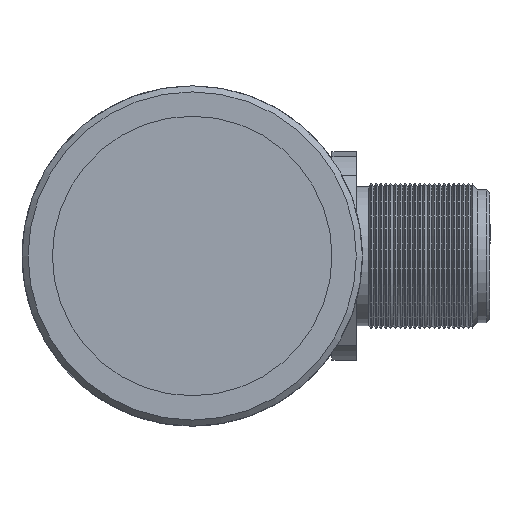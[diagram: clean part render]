
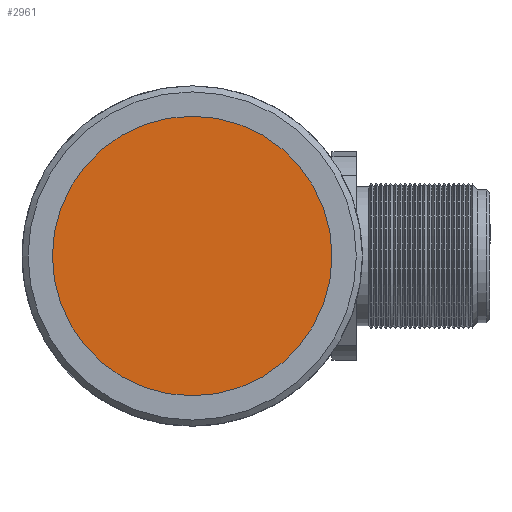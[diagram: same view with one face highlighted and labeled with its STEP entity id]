
A CAD part, left-side view. The second image highlights one B-rep face of the part: STEP entity #2961.
In plain terms, the highlighted planar face has unit normal (-1, 0, 0).
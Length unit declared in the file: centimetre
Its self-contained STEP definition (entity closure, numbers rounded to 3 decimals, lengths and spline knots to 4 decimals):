
#610=PLANE('',#3198);
#728=VERTEX_POINT('',#3546);
#990=CIRCLE('',#3197,1.15);
#1154=EDGE_CURVE('',#728,#728,#990,.T.);
#1538=ORIENTED_EDGE('',*,*,#1154,.T.);
#2292=EDGE_LOOP('',(#1538));
#2631=FACE_BOUND('',#2292,.T.);
#2961=ADVANCED_FACE('',(#2631),#610,.F.);
#3197=AXIS2_PLACEMENT_3D('',#3545,#4749,#4750);
#3198=AXIS2_PLACEMENT_3D('',#3547,#4751,$);
#3545=CARTESIAN_POINT('',(-4.6,0.,0.));
#3546=CARTESIAN_POINT('',(-4.6,0.,-1.15));
#3547=CARTESIAN_POINT('',(-4.6,0.,0.));
#4749=DIRECTION('',(-1.,0.,0.));
#4750=DIRECTION('',(0.,0.,-1.15));
#4751=DIRECTION('',(1.,0.,0.));
